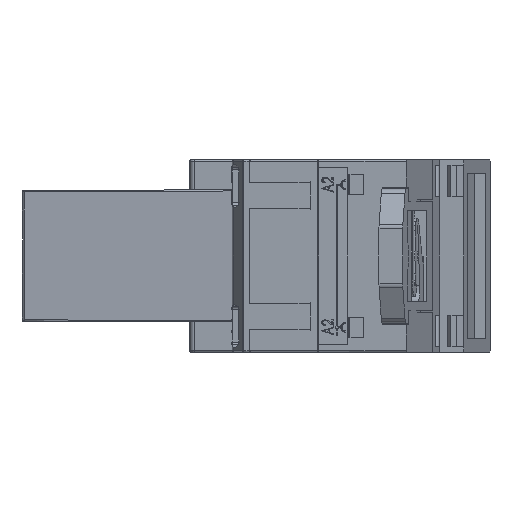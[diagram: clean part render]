
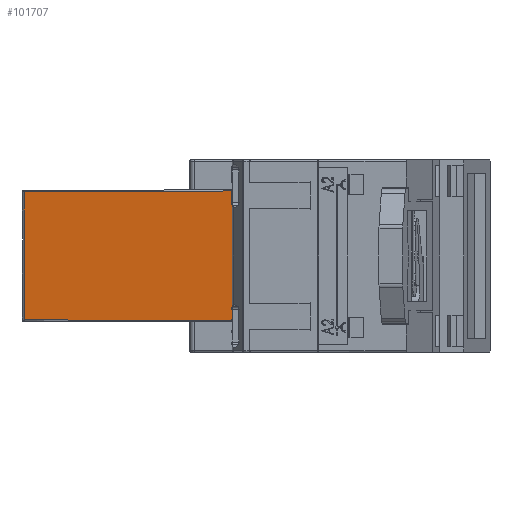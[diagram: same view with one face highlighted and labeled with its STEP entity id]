
A CAD part, left-side view. The second image highlights one B-rep face of the part: STEP entity #101707.
In plain terms, the highlighted planar face has unit normal (-0.99, 0.142, 0) as drawn and (0, -1, 0.004) by its records, which use the part's own axes.
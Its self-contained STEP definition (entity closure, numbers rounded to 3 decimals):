
#1043 = DIRECTION ( 'NONE',  ( 0., -1., 0.004 ) ) ;
#3176 = LINE ( 'NONE', #96106, #64961 ) ;
#3468 = VERTEX_POINT ( 'NONE', #104356 ) ;
#6266 = ORIENTED_EDGE ( 'NONE', *, *, #60205, .T. ) ;
#6288 = LINE ( 'NONE', #18685, #25214 ) ;
#11938 = ORIENTED_EDGE ( 'NONE', *, *, #49283, .T. ) ;
#12576 = CARTESIAN_POINT ( 'NONE',  ( -20.014, -15.764, -0.365 ) ) ;
#16853 = PLANE ( 'NONE',  #85625 ) ;
#17214 = LINE ( 'NONE', #38637, #79054 ) ;
#18685 = CARTESIAN_POINT ( 'NONE',  ( 0.585, -15.764, -0.274 ) ) ;
#23832 = DIRECTION ( 'NONE',  ( -0.004, -0.004, -1. ) ) ;
#25214 = VECTOR ( 'NONE', #83221, 1000. ) ;
#28601 = VERTEX_POINT ( 'NONE', #96210 ) ;
#38637 = CARTESIAN_POINT ( 'NONE',  ( -20.063, -15.615, 33.835 ) ) ;
#40915 = VERTEX_POINT ( 'NONE', #87385 ) ;
#43100 = DIRECTION ( 'NONE',  ( 1., 0., 0. ) ) ;
#45005 = EDGE_CURVE ( 'NONE', #47147, #40915, #63015, .T. ) ;
#46571 = VECTOR ( 'NONE', #43100, 1000. ) ;
#47147 = VERTEX_POINT ( 'NONE', #12576 ) ;
#48261 = ORIENTED_EDGE ( 'NONE', *, *, #45005, .T. ) ;
#49282 = CARTESIAN_POINT ( 'NONE',  ( -20.214, -15.764, -0.365 ) ) ;
#49283 = EDGE_CURVE ( 'NONE', #28601, #3468, #17214, .T. ) ;
#56817 = EDGE_CURVE ( 'NONE', #3468, #47147, #3176, .T. ) ;
#57413 = DIRECTION ( 'NONE',  ( -1., 0., 0. ) ) ;
#60205 = EDGE_CURVE ( 'NONE', #40915, #28601, #6288, .T. ) ;
#62299 = DIRECTION ( 'NONE',  ( -1., 0., 0. ) ) ;
#63015 = LINE ( 'NONE', #91383, #46571 ) ;
#64961 = VECTOR ( 'NONE', #23832, 1000. ) ;
#73192 = FACE_OUTER_BOUND ( 'NONE', #99819, .T. ) ;
#79054 = VECTOR ( 'NONE', #62299, 1000. ) ;
#83221 = DIRECTION ( 'NONE',  ( -0.004, 0.004, 1. ) ) ;
#85625 = AXIS2_PLACEMENT_3D ( 'NONE', #49282, #1043, #57413 ) ;
#86142 = ORIENTED_EDGE ( 'NONE', *, *, #56817, .T. ) ;
#87385 = CARTESIAN_POINT ( 'NONE',  ( 0.586, -15.764, -0.365 ) ) ;
#91383 = CARTESIAN_POINT ( 'NONE',  ( -20.214, -15.764, -0.365 ) ) ;
#96106 = CARTESIAN_POINT ( 'NONE',  ( -20.014, -15.764, -0.366 ) ) ;
#96210 = CARTESIAN_POINT ( 'NONE',  ( 0.436, -15.615, 33.835 ) ) ;
#99819 = EDGE_LOOP ( 'NONE', ( #48261, #6266, #11938, #86142 ) ) ;
#101707 = ADVANCED_FACE ( 'NONE', ( #73192 ), #16853, .T. ) ;
#104356 = CARTESIAN_POINT ( 'NONE',  ( -19.865, -15.615, 33.835 ) ) ;
